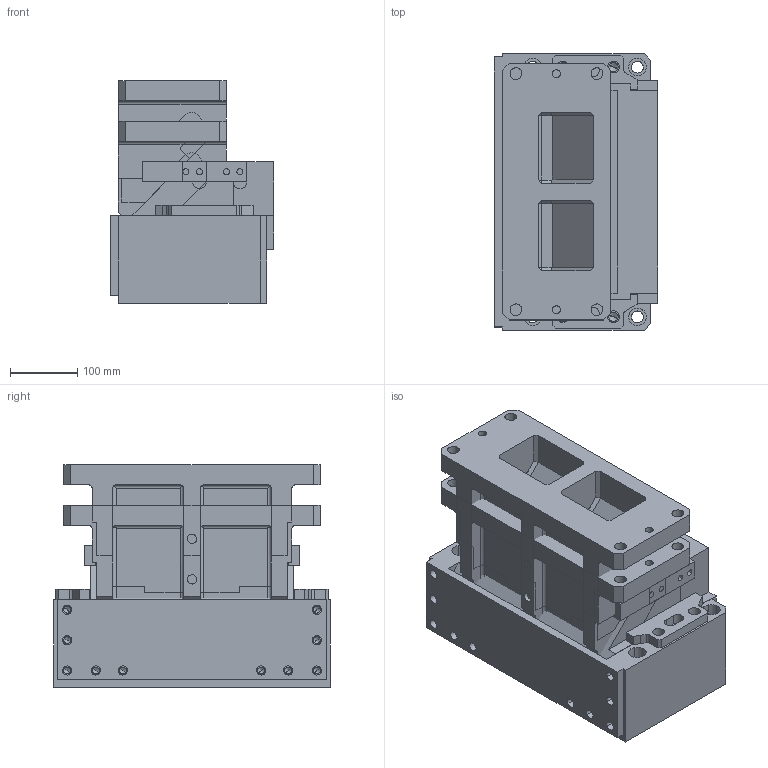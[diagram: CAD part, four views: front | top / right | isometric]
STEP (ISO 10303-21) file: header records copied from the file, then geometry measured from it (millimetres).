
FILE_DESCRIPTION(('CATIA V5 STEP','CAx-IF Rec.Pracs.--- Model Styling and Organization---1.4--- 2014-01-23','CAx-IF Rec.Pracs.---3D Tessellated Data Validation Properties---0.5---2014-09-14'),'2;1');
FILE_NAME('H:\_COMPRESS_2\2016.11.00.300.060.1.2__CM.stp','2020-11-18T12:57:05+00:00',('${USER}'),('AUDI AG, ${GROUP}'),'CATIA Version 5-6 Release 2018 SP3 HF27','CATIA V5 STEP AP242','none');
FILE_SCHEMA(('AP242_MANAGED_MODEL_BASED_3D_ENGINEERING_MIM_LF {1 0 10303 442 1 1 4}'));
Length unit declared in the file: millimetre
Products named in the file (1): 2016.11.00.300.060.1.2__CM
Bounding box: 242 x 410 x 330 mm (x, y, z)
Volume: 26189419.6 mm3; surface area: 1751795.3 mm2
Topology: 5 solids, 5 shells, 723 faces, 1827 edges, 1152 vertices
Faces by surface type: plane 434, cylinder 239, cone 44, sphere 4, bspline 2
Entity records: 20411 total; most frequent: CARTESIAN_POINT 4136, ORIENTED_EDGE 3576, DIRECTION 2757, EDGE_CURVE 1788, VECTOR 1251, LINE 1251, VERTEX_POINT 1148, AXIS2_PLACEMENT_3D 980
